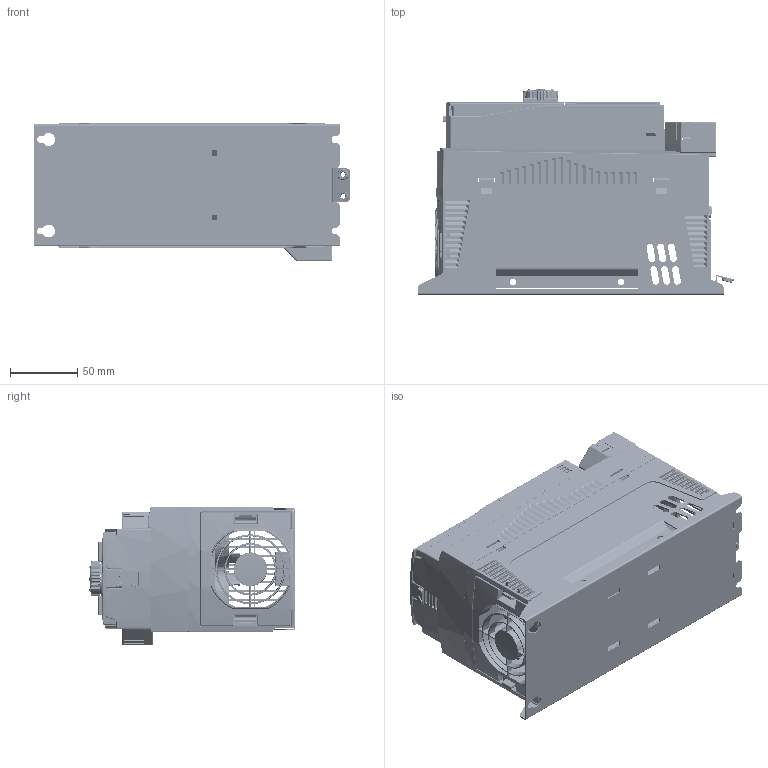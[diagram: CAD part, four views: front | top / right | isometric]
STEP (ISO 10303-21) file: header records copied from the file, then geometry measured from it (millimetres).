
FILE_DESCRIPTION((''),'2;1');
FILE_NAME('00-A8-5R5_ASM_19_ASM','2024-08-14T',('Administrator'),(''),'PRO/ENGINEER BY PARAMETRIC TECHNOLOGY CORPORATION, 2010280','PRO/ENGINEER BY PARAMETRIC TECHNOLOGY CORPORATION, 2010280','');
FILE_SCHEMA(('AUTOMOTIVE_DESIGN { 1 0 10303 214 1 1 1 1 }'));
Length unit declared in the file: millimetre
Products named in the file (41): A8-5R5-01-01_2; A8-5R5-01-02_2; A8-5R5-01-03_2; A8-5R5-01-05_2; A8-5R5-01_ASM_3_ASM; BHK3-9-04_2; A8Q-5R5-01Y_ASM_3_ASM; A8-5R5-01-06_2; S-M4-ZC_2; A8-5R5-01-06_ASM_2_ASM; A9-01-01_2; A9-01-02_2; A9-01-04_2; A9-01_ASM_3_ASM; 8PING-ZUO_2; KFM736-5D0_2; A9KZPCB_ASM_3_ASM; A9-01-08_2; A9-01-09_2; A9-01-10_2; A9-KZK-01_ASM_2_ASM; KF250-3-5_3; SKD-2500-03_3; KF250-3-5-2P_2; 8PIN-ZUO-1_2; KZK_ASM_3_ASM; KZK-00_ASM_3_ASM; A9-01-05_2; A9-01-06_2; A9-01-07_2; A9-JP-01_ASM_3_ASM; A9-10-01_2; A9-10-02_2; MANIFOLD_SOLID_BREP_466749; MANIFOLD_SOLID_BREP_481547; A9-10-04_2_ASM; A9-10_ASM_3_ASM; H23T37-03Z_2; A9-JP_ASM_3_ASM; 00-A9-KZ_ASM_4_ASM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
Assembly tree (44 placements, depth 6):
  00-A8-5R5_ASM_19_ASM
    A8-5R5-01_ASM_3_ASM
      A8-5R5-01-01_2
      A8-5R5-01-02_2
      A8-5R5-01-03_2
      A8-5R5-01-05_2
    A8Q-5R5-01Y_ASM_3_ASM
      BHK3-9-04_2
    A8-5R5-01-06_ASM_2_ASM
      A8-5R5-01-06_2
      S-M4-ZC_2  x2
    00-A9-KZ_ASM_4_ASM
      A9-01_ASM_3_ASM
        A9-01-01_2
        A9-01-02_2
        A9-01-04_2
      A9KZPCB_ASM_3_ASM
        8PING-ZUO_2  x2
        KFM736-5D0_2
      KZK-00_ASM_3_ASM
        A9-KZK-01_ASM_2_ASM
          A9-01-08_2
          A9-01-09_2
          A9-01-10_2
        KZK_ASM_3_ASM
          KF250-3-5_3
          SKD-2500-03_3  x2
          KF250-3-5-2P_2
          8PIN-ZUO-1_2  x2
      A9-JP_ASM_3_ASM
        A9-JP-01_ASM_3_ASM
          A9-01-05_2
          A9-01-06_2
          A9-01-07_2
        A9-10_ASM_3_ASM
          A9-10-01_2
          A9-10-02_2
          A9-10-04_2_ASM
            MANIFOLD_SOLID_BREP_466749
            MANIFOLD_SOLID_BREP_481547
        H23T37-03Z_2
Bounding box: 234.83 x 152.8 x 102.95 mm (x, y, z)
Volume: 381032.3 mm3; surface area: 508851.4 mm2
Topology: 31 solids, 31 shells, 10558 faces, 32394 edges, 22668 vertices
Faces by surface type: plane 8830, cylinder 1159, cone 292, bspline 161, torus 62, sphere 54
Entity records: 426470 total; most frequent: CARTESIAN_POINT 78656, ORIENTED_EDGE 55974, DIRECTION 50814, EDGE_CURVE 27987, VECTOR 24298, LINE 24298, VERTEX_POINT 18513, PRESENTATION_STYLE_ASSIGNMENT 17859
